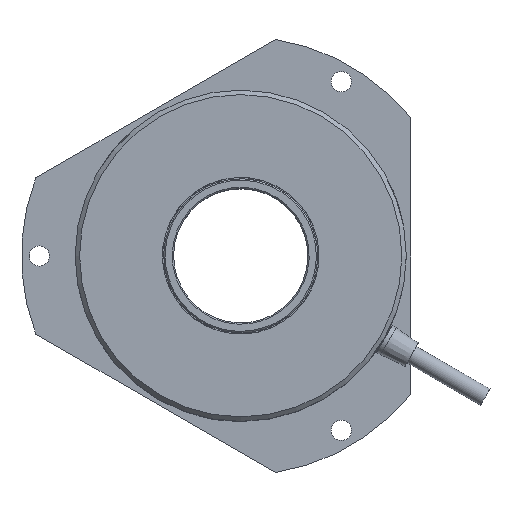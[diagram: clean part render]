
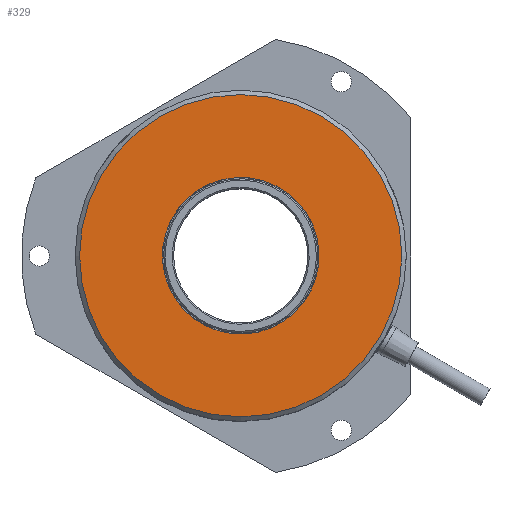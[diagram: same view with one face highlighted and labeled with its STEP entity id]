
A CAD part, top view. The second image highlights one B-rep face of the part: STEP entity #329.
In plain terms, the highlighted planar face has unit normal (0, 0, 1).
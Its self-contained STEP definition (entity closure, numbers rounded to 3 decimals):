
#329=ADVANCED_FACE('',(#813,#814),#815,.F.);
#813=FACE_OUTER_BOUND('',#1537,.T.);
#814=FACE_BOUND('',#1538,.T.);
#815=PLANE('',#1539);
#1537=EDGE_LOOP('',(#2383));
#1538=EDGE_LOOP('',(#2384));
#1539=AXIS2_PLACEMENT_3D('',#2385,#2386,#2387);
#2383=ORIENTED_EDGE('',*,*,#3749,.T.);
#2384=ORIENTED_EDGE('',*,*,#3665,.F.);
#2385=CARTESIAN_POINT('',(-14.5,-25.115,30.));
#2386=DIRECTION('',(0.,0.,-1.0));
#2387=DIRECTION('',(0.5,0.866,0.));
#3665=EDGE_CURVE('',#4240,#4240,#4241,.T.);
#3749=EDGE_CURVE('',#4374,#4374,#4375,.F.);
#4240=VERTEX_POINT('',#5267);
#4241=CIRCLE('',#5268,17.5);
#4374=VERTEX_POINT('',#5456);
#4375=CIRCLE('',#5457,36.0);
#5267=CARTESIAN_POINT('',(11.98,-12.757,30.0));
#5268=AXIS2_PLACEMENT_3D('',#6497,#6498,#6499);
#5456=CARTESIAN_POINT('',(18.,31.177,30.));
#5457=AXIS2_PLACEMENT_3D('',#6627,#6628,#6629);
#6497=CARTESIAN_POINT('',(0.,0.,30.0));
#6498=DIRECTION('',(0.,0.,1.0));
#6499=DIRECTION('',(0.685,-0.729,0.));
#6627=CARTESIAN_POINT('',(0.,0.,30.0));
#6628=DIRECTION('',(0.,0.,-1.0));
#6629=DIRECTION('',(0.5,0.866,0.));
